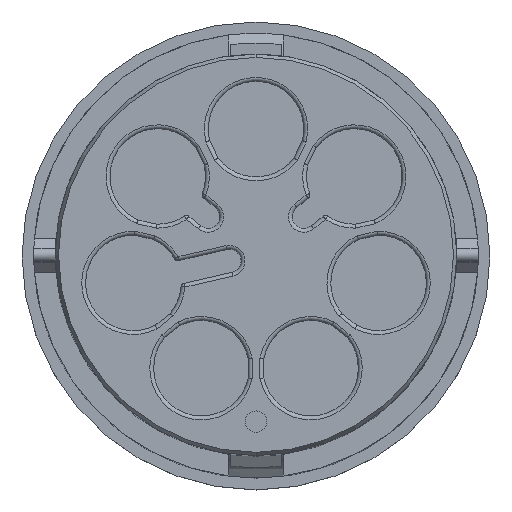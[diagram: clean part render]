
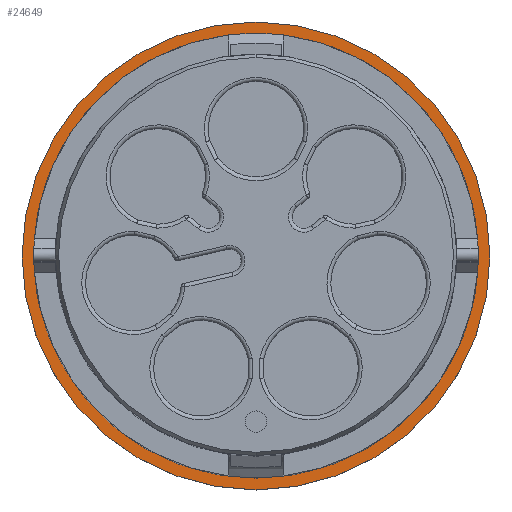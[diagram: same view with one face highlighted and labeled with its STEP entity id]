
A CAD part, top view. The second image highlights one B-rep face of the part: STEP entity #24649.
In plain terms, the highlighted planar face has unit normal (0, 0, 1).
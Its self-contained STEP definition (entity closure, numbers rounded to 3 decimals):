
#8591=CARTESIAN_POINT('',(0.,0.,-32.));
#8592=DIRECTION('',(0.,0.,-1.));
#8593=DIRECTION('',(0.,1.,0.));
#8594=AXIS2_PLACEMENT_3D('',#8591,#8592,#8593);
#8599=CARTESIAN_POINT('',(0.,0.,-32.));
#8600=DIRECTION('',(0.,0.,1.));
#8601=DIRECTION('',(0.,1.,0.));
#8602=AXIS2_PLACEMENT_3D('',#8599,#8600,#8601);
#8621=CARTESIAN_POINT('',(0.,0.,-32.));
#8622=DIRECTION('',(0.,0.,1.));
#8623=DIRECTION('',(0.,1.,0.));
#8624=AXIS2_PLACEMENT_3D('',#8621,#8622,#8623);
#8629=CARTESIAN_POINT('',(0.,0.,-32.));
#8630=DIRECTION('',(0.,0.,-1.));
#8631=DIRECTION('',(0.,1.,0.));
#8632=AXIS2_PLACEMENT_3D('',#8629,#8630,#8631);
#18603=CARTESIAN_POINT('',(0.,12.,-32.));
#18605=VERTEX_POINT('',#18603);
#18606=CARTESIAN_POINT('',(0.,10.9,-32.));
#18608=VERTEX_POINT('',#18606);
#18611=CARTESIAN_POINT('',(0.,-12.,-32.));
#18613=VERTEX_POINT('',#18611);
#18614=CARTESIAN_POINT('',(0.,-10.9,-32.));
#18616=VERTEX_POINT('',#18614);
#24634=CARTESIAN_POINT('',(0.,0.,-32.));
#24635=DIRECTION('',(0.,0.,-1.));
#24636=DIRECTION('',(0.,-1.,0.));
#24637=AXIS2_PLACEMENT_3D('',#24634,#24635,#24636);
#24638=PLANE('',#24637);
#24639=ORIENTED_EDGE('',*,*,#24629,.T.);
#24640=ORIENTED_EDGE('',*,*,#24613,.F.);
#24641=EDGE_LOOP('',(#24639,#24640));
#24642=FACE_OUTER_BOUND('',#24641,.F.);
#24644=ORIENTED_EDGE('',*,*,#24643,.T.);
#24646=ORIENTED_EDGE('',*,*,#24645,.F.);
#24647=EDGE_LOOP('',(#24644,#24646));
#24648=FACE_BOUND('',#24647,.F.);
#8595=CIRCLE('',#8594,12.);
#8603=CIRCLE('',#8602,12.);
#8625=CIRCLE('',#8624,10.9);
#8633=CIRCLE('',#8632,10.9);
#24613=EDGE_CURVE('',#18605,#18613,#8603,.T.);
#24629=EDGE_CURVE('',#18605,#18613,#8595,.T.);
#24643=EDGE_CURVE('',#18608,#18616,#8625,.T.);
#24645=EDGE_CURVE('',#18608,#18616,#8633,.T.);
#24649=ADVANCED_FACE('',(#24642,#24648),#24638,.F.);
